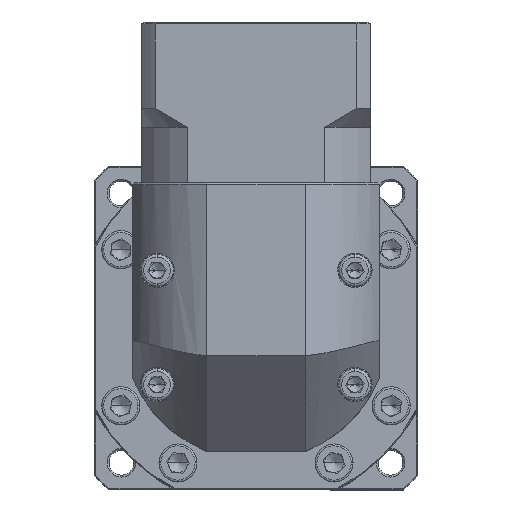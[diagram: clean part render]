
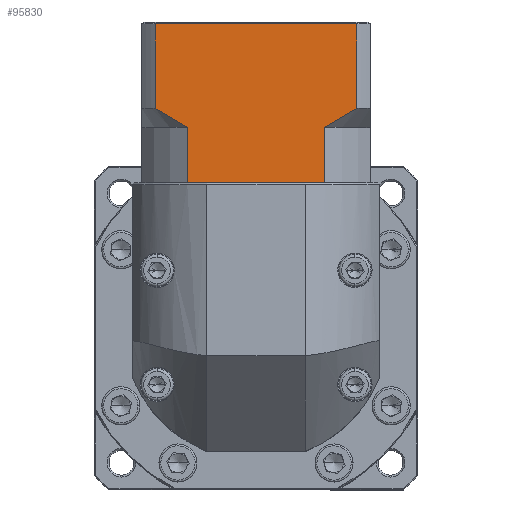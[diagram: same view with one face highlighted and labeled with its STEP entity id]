
A CAD part, top view. The second image highlights one B-rep face of the part: STEP entity #95830.
In plain terms, the highlighted planar face has unit normal (0, 0, 1).
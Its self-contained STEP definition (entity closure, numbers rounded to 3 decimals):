
#955 = CARTESIAN_POINT ( 'NONE',  ( -111.641, 69.741, 48.506 ) ) ;
#3870 = ORIENTED_EDGE ( 'NONE', *, *, #126855, .T. ) ;
#4791 = ORIENTED_EDGE ( 'NONE', *, *, #55814, .F. ) ;
#7053 = DIRECTION ( 'NONE',  ( -1., 0., 0. ) ) ;
#7282 = VECTOR ( 'NONE', #123527, 1000. ) ;
#11175 = CARTESIAN_POINT ( 'NONE',  ( -61.469, 72.966, 48.506 ) ) ;
#11296 = CARTESIAN_POINT ( 'NONE',  ( -58.726, 96.941, 48.506 ) ) ;
#12178 = VECTOR ( 'NONE', #115799, 1000. ) ;
#13461 = DIRECTION ( 'NONE',  ( 0., 0., -1. ) ) ;
#16960 = AXIS2_PLACEMENT_3D ( 'NONE', #34684, #13461, #45837 ) ;
#19532 = ORIENTED_EDGE ( 'NONE', *, *, #117781, .T. ) ;
#21802 = CARTESIAN_POINT ( 'NONE',  ( -58.726, 74.741, 48.506 ) ) ;
#22385 = EDGE_CURVE ( 'NONE', #63941, #125084, #46351, .T. ) ;
#22561 = CARTESIAN_POINT ( 'NONE',  ( -67.156, 55.241, 48.506 ) ) ;
#26425 = CARTESIAN_POINT ( 'NONE',  ( -68.147, 55.241, 48.506 ) ) ;
#26642 = DIRECTION ( 'NONE',  ( 0., -1., 0. ) ) ;
#31933 = CARTESIAN_POINT ( 'NONE',  ( -67.156, 69.741, 48.506 ) ) ;
#33869 = ORIENTED_EDGE ( 'NONE', *, *, #22385, .T. ) ;
#34684 = CARTESIAN_POINT ( 'NONE',  ( -115.183, 97.441, 48.506 ) ) ;
#36256 = CARTESIAN_POINT ( 'NONE',  ( -104.663, 70.489, 48.506 ) ) ;
#36406 = VECTOR ( 'NONE', #105539, 1000. ) ;
#39478 = CARTESIAN_POINT ( 'NONE',  ( -103.211, 69.741, 48.506 ) ) ;
#40370 = VERTEX_POINT ( 'NONE', #117976 ) ;
#40913 = DIRECTION ( 'NONE',  ( 1., 0., 0. ) ) ;
#41089 = B_SPLINE_CURVE_WITH_KNOTS ( 'NONE', 3,
 ( #121143, #79752, #99728, #132731, #36256, #131814 ),
 .UNSPECIFIED., .F., .F.,
 ( 4, 2, 4 ),
 ( 0.052, 0.057, 0.062 ),
 .UNSPECIFIED. ) ;
#41547 = FACE_OUTER_BOUND ( 'NONE', #129346, .T. ) ;
#41836 = CARTESIAN_POINT ( 'NONE',  ( -115.183, 55.241, 48.506 ) ) ;
#42610 = CARTESIAN_POINT ( 'NONE',  ( -115.183, 55.241, 48.506 ) ) ;
#43056 = CARTESIAN_POINT ( 'NONE',  ( -65.699, 70.491, 48.506 ) ) ;
#45837 = DIRECTION ( 'NONE',  ( 0., 1., 0. ) ) ;
#46351 = LINE ( 'NONE', #70747, #36406 ) ;
#48105 = ORIENTED_EDGE ( 'NONE', *, *, #109517, .T. ) ;
#51873 = B_SPLINE_CURVE_WITH_KNOTS ( 'NONE', 3,
 ( #31933, #43056, #63845, #11175, #74564, #21802 ),
 .UNSPECIFIED., .F., .F.,
 ( 4, 2, 4 ),
 ( 0.1, 0.104, 0.109 ),
 .UNSPECIFIED. ) ;
#52174 = EDGE_CURVE ( 'NONE', #40370, #66474, #70209, .T. ) ;
#54163 = ORIENTED_EDGE ( 'NONE', *, *, #57018, .F. ) ;
#55814 = EDGE_CURVE ( 'NONE', #74765, #120729, #129890, .T. ) ;
#56599 = VERTEX_POINT ( 'NONE', #11296 ) ;
#57018 = EDGE_CURVE ( 'NONE', #132852, #125084, #119257, .T. ) ;
#58378 = ORIENTED_EDGE ( 'NONE', *, *, #117456, .T. ) ;
#59428 = ORIENTED_EDGE ( 'NONE', *, *, #96773, .F. ) ;
#60367 = LINE ( 'NONE', #42610, #101971 ) ;
#60653 = ORIENTED_EDGE ( 'NONE', *, *, #99560, .T. ) ;
#63845 = CARTESIAN_POINT ( 'NONE',  ( -64.274, 71.292, 48.506 ) ) ;
#63941 = VERTEX_POINT ( 'NONE', #26425 ) ;
#64326 = DIRECTION ( 'NONE',  ( 1., 0., 0. ) ) ;
#66082 = DIRECTION ( 'NONE',  ( 0., -1., 0. ) ) ;
#66474 = VERTEX_POINT ( 'NONE', #76700 ) ;
#67890 = VECTOR ( 'NONE', #40913, 1000. ) ;
#70209 = LINE ( 'NONE', #39478, #7282 ) ;
#70747 = CARTESIAN_POINT ( 'NONE',  ( -115.183, 55.241, 48.506 ) ) ;
#73535 = VERTEX_POINT ( 'NONE', #124545 ) ;
#74564 = CARTESIAN_POINT ( 'NONE',  ( -60.089, 73.84, 48.506 ) ) ;
#74765 = VERTEX_POINT ( 'NONE', #112377 ) ;
#76700 = CARTESIAN_POINT ( 'NONE',  ( -103.211, 69.741, 48.506 ) ) ;
#76720 = LINE ( 'NONE', #82475, #101618 ) ;
#79752 = CARTESIAN_POINT ( 'NONE',  ( -110.281, 73.841, 48.506 ) ) ;
#81827 = VERTEX_POINT ( 'NONE', #136554 ) ;
#82475 = CARTESIAN_POINT ( 'NONE',  ( -115.183, 96.941, 48.506 ) ) ;
#89100 = CARTESIAN_POINT ( 'NONE',  ( -67.156, 69.741, 48.506 ) ) ;
#90104 = CARTESIAN_POINT ( 'NONE',  ( -58.726, 69.741, 48.506 ) ) ;
#94289 = VECTOR ( 'NONE', #66082, 1000. ) ;
#95451 = PLANE ( 'NONE',  #16960 ) ;
#95830 = ADVANCED_FACE ( 'NONE', ( #41547 ), #95451, .F. ) ;
#96773 = EDGE_CURVE ( 'NONE', #56599, #73535, #124159, .T. ) ;
#99560 = EDGE_CURVE ( 'NONE', #56599, #120729, #76720, .T. ) ;
#99728 = CARTESIAN_POINT ( 'NONE',  ( -108.902, 72.968, 48.506 ) ) ;
#99763 = CARTESIAN_POINT ( 'NONE',  ( -111.641, 96.941, 48.506 ) ) ;
#101618 = VECTOR ( 'NONE', #7053, 1000. ) ;
#101971 = VECTOR ( 'NONE', #64326, 1000. ) ;
#102800 = LINE ( 'NONE', #41836, #67890 ) ;
#105539 = DIRECTION ( 'NONE',  ( 1., 0., 0. ) ) ;
#106961 = CARTESIAN_POINT ( 'NONE',  ( -67.156, 69.741, 48.506 ) ) ;
#109517 = EDGE_CURVE ( 'NONE', #40370, #81827, #102800, .T. ) ;
#112377 = CARTESIAN_POINT ( 'NONE',  ( -111.641, 74.741, 48.506 ) ) ;
#115799 = DIRECTION ( 'NONE',  ( 0., 1., 0. ) ) ;
#117456 = EDGE_CURVE ( 'NONE', #74765, #66474, #41089, .T. ) ;
#117781 = EDGE_CURVE ( 'NONE', #81827, #63941, #60367, .T. ) ;
#117976 = CARTESIAN_POINT ( 'NONE',  ( -103.211, 55.241, 48.506 ) ) ;
#119257 = LINE ( 'NONE', #106961, #94289 ) ;
#120729 = VERTEX_POINT ( 'NONE', #99763 ) ;
#121143 = CARTESIAN_POINT ( 'NONE',  ( -111.641, 74.741, 48.506 ) ) ;
#123527 = DIRECTION ( 'NONE',  ( 0., 1., 0. ) ) ;
#124159 = LINE ( 'NONE', #90104, #134090 ) ;
#124545 = CARTESIAN_POINT ( 'NONE',  ( -58.726, 74.741, 48.506 ) ) ;
#125084 = VERTEX_POINT ( 'NONE', #22561 ) ;
#125233 = ORIENTED_EDGE ( 'NONE', *, *, #52174, .F. ) ;
#126855 = EDGE_CURVE ( 'NONE', #132852, #73535, #51873, .T. ) ;
#129346 = EDGE_LOOP ( 'NONE', ( #59428, #60653, #4791, #58378, #125233, #48105, #19532, #33869, #54163, #3870 ) ) ;
#129890 = LINE ( 'NONE', #955, #12178 ) ;
#131814 = CARTESIAN_POINT ( 'NONE',  ( -103.211, 69.741, 48.506 ) ) ;
#132731 = CARTESIAN_POINT ( 'NONE',  ( -106.095, 71.292, 48.506 ) ) ;
#132852 = VERTEX_POINT ( 'NONE', #89100 ) ;
#134090 = VECTOR ( 'NONE', #26642, 1000. ) ;
#136554 = CARTESIAN_POINT ( 'NONE',  ( -102.22, 55.241, 48.506 ) ) ;
